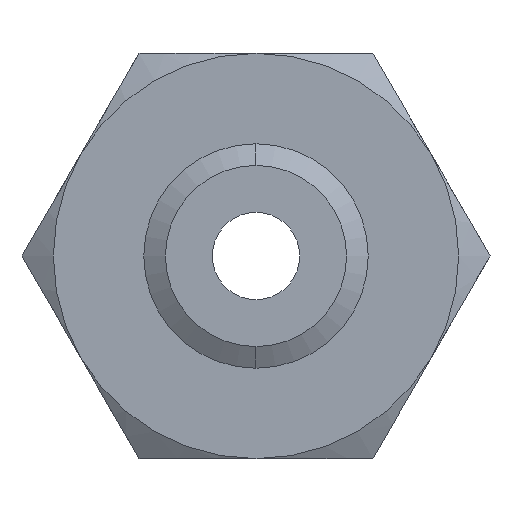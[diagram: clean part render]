
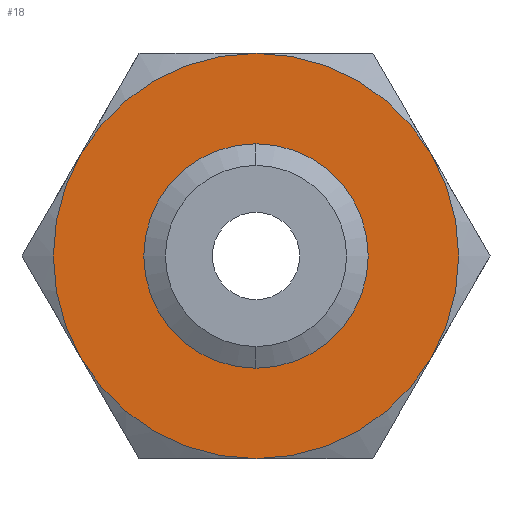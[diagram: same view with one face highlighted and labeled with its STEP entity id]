
A CAD part, front view. The second image highlights one B-rep face of the part: STEP entity #18.
In plain terms, the highlighted planar face has unit normal (0, -1, 0).
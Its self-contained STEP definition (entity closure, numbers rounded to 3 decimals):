
#1 = VERTEX_POINT ( 'NONE', #68 ) ;
#2 = ORIENTED_EDGE ( 'NONE', *, *, #3, .F. ) ;
#3 = EDGE_CURVE ( 'NONE', #6, #8, #233, .T. ) ;
#4 = ORIENTED_EDGE ( 'NONE', *, *, #5, .F. ) ;
#5 = EDGE_CURVE ( 'NONE', #1646, #1645, #228, .T. ) ;
#6 = VERTEX_POINT ( 'NONE', #223 ) ;
#8 = VERTEX_POINT ( 'NONE', #219 ) ;
#10 = ORIENTED_EDGE ( 'NONE', *, *, #11, .F. ) ;
#11 = EDGE_CURVE ( 'NONE', #26, #1, #215, .T. ) ;
#18 = ADVANCED_FACE ( 'NONE', ( #263, #262 ), #261, .F. ) ;
#24 = EDGE_LOOP ( 'NONE', ( #10, #32, #2, #2142, #2133, #2109 ) ) ;
#26 = VERTEX_POINT ( 'NONE', #243 ) ;
#32 = ORIENTED_EDGE ( 'NONE', *, *, #36, .F. ) ;
#36 = EDGE_CURVE ( 'NONE', #8, #26, #293, .T. ) ;
#68 = CARTESIAN_POINT ( 'NONE',  ( 28.146, 0., 16.25 ) ) ;
#211 = DIRECTION ( 'NONE',  ( 0., 0., 1. ) ) ;
#212 = DIRECTION ( 'NONE',  ( 0., 1., 0. ) ) ;
#213 = CARTESIAN_POINT ( 'NONE',  ( 0., 0., 0. ) ) ;
#214 = AXIS2_PLACEMENT_3D ( 'NONE', #213, #212, #211 ) ;
#215 = CIRCLE ( 'NONE', #214, 32.5 ) ;
#219 = CARTESIAN_POINT ( 'NONE',  ( -28.146, 0., 16.25 ) ) ;
#223 = CARTESIAN_POINT ( 'NONE',  ( -28.146, 0., -16.25 ) ) ;
#224 = DIRECTION ( 'NONE',  ( 0., 0., -1. ) ) ;
#225 = DIRECTION ( 'NONE',  ( 0., -1., 0. ) ) ;
#226 = CARTESIAN_POINT ( 'NONE',  ( 0., 0., 0. ) ) ;
#227 = AXIS2_PLACEMENT_3D ( 'NONE', #226, #225, #224 ) ;
#228 = CIRCLE ( 'NONE', #227, 14.536 ) ;
#229 = DIRECTION ( 'NONE',  ( 0., 0., 1. ) ) ;
#230 = DIRECTION ( 'NONE',  ( 0., 1., 0. ) ) ;
#231 = CARTESIAN_POINT ( 'NONE',  ( 0., 0., 0. ) ) ;
#232 = AXIS2_PLACEMENT_3D ( 'NONE', #231, #230, #229 ) ;
#233 = CIRCLE ( 'NONE', #232, 32.5 ) ;
#243 = CARTESIAN_POINT ( 'NONE',  ( 0., 0., 32.5 ) ) ;
#256 = DIRECTION ( 'NONE',  ( 0., 0., 1. ) ) ;
#257 = DIRECTION ( 'NONE',  ( 0., 1., 0. ) ) ;
#258 = CARTESIAN_POINT ( 'NONE',  ( 18.764, 0., -32.5 ) ) ;
#260 = AXIS2_PLACEMENT_3D ( 'NONE', #258, #257, #256 ) ;
#261 = PLANE ( 'NONE',  #260 ) ;
#262 = FACE_BOUND ( 'NONE', #2104, .T. ) ;
#263 = FACE_OUTER_BOUND ( 'NONE', #24, .T. ) ;
#289 = DIRECTION ( 'NONE',  ( 0., 0., 1. ) ) ;
#290 = DIRECTION ( 'NONE',  ( 0., 1., 0. ) ) ;
#291 = CARTESIAN_POINT ( 'NONE',  ( 0., 0., 0. ) ) ;
#292 = AXIS2_PLACEMENT_3D ( 'NONE', #291, #290, #289 ) ;
#293 = CIRCLE ( 'NONE', #292, 32.5 ) ;
#712 = CARTESIAN_POINT ( 'NONE',  ( 0., 0., 14.536 ) ) ;
#713 = CARTESIAN_POINT ( 'NONE',  ( 0., 0., -14.536 ) ) ;
#1487 = CARTESIAN_POINT ( 'NONE',  ( 28.146, 0., -16.25 ) ) ;
#1489 = DIRECTION ( 'NONE',  ( 0., 0., 1. ) ) ;
#1490 = DIRECTION ( 'NONE',  ( 0., 1., 0. ) ) ;
#1491 = CARTESIAN_POINT ( 'NONE',  ( 0., 0., 0. ) ) ;
#1492 = AXIS2_PLACEMENT_3D ( 'NONE', #1491, #1490, #1489 ) ;
#1493 = CIRCLE ( 'NONE', #1492, 32.5 ) ;
#1495 = DIRECTION ( 'NONE',  ( 0., 0., 1. ) ) ;
#1496 = DIRECTION ( 'NONE',  ( 0., 1., 0. ) ) ;
#1497 = CARTESIAN_POINT ( 'NONE',  ( 0., 0., 0. ) ) ;
#1498 = AXIS2_PLACEMENT_3D ( 'NONE', #1497, #1496, #1495 ) ;
#1499 = CIRCLE ( 'NONE', #1498, 32.5 ) ;
#1506 = CARTESIAN_POINT ( 'NONE',  ( 0., 0., 0. ) ) ;
#1507 = AXIS2_PLACEMENT_3D ( 'NONE', #1506, #1556, #1555 ) ;
#1512 = CIRCLE ( 'NONE', #1507, 32.5 ) ;
#1532 = DIRECTION ( 'NONE',  ( 0., 0., -1. ) ) ;
#1533 = DIRECTION ( 'NONE',  ( 0., -1., 0. ) ) ;
#1534 = CARTESIAN_POINT ( 'NONE',  ( 0., 0., 0. ) ) ;
#1535 = AXIS2_PLACEMENT_3D ( 'NONE', #1534, #1533, #1532 ) ;
#1536 = CIRCLE ( 'NONE', #1535, 14.536 ) ;
#1546 = CARTESIAN_POINT ( 'NONE',  ( 0., 0., -32.5 ) ) ;
#1555 = DIRECTION ( 'NONE',  ( 0., 0., 1. ) ) ;
#1556 = DIRECTION ( 'NONE',  ( 0., 1., 0. ) ) ;
#1645 = VERTEX_POINT ( 'NONE', #713 ) ;
#1646 = VERTEX_POINT ( 'NONE', #712 ) ;
#2102 = ORIENTED_EDGE ( 'NONE', *, *, #2120, .F. ) ;
#2104 = EDGE_LOOP ( 'NONE', ( #2102, #4 ) ) ;
#2108 = EDGE_CURVE ( 'NONE', #1, #2114, #1499, .T. ) ;
#2109 = ORIENTED_EDGE ( 'NONE', *, *, #2108, .F. ) ;
#2112 = EDGE_CURVE ( 'NONE', #2114, #2143, #1493, .T. ) ;
#2114 = VERTEX_POINT ( 'NONE', #1487 ) ;
#2120 = EDGE_CURVE ( 'NONE', #1645, #1646, #1536, .T. ) ;
#2132 = EDGE_CURVE ( 'NONE', #2143, #6, #1512, .T. ) ;
#2133 = ORIENTED_EDGE ( 'NONE', *, *, #2112, .F. ) ;
#2142 = ORIENTED_EDGE ( 'NONE', *, *, #2132, .F. ) ;
#2143 = VERTEX_POINT ( 'NONE', #1546 ) ;
